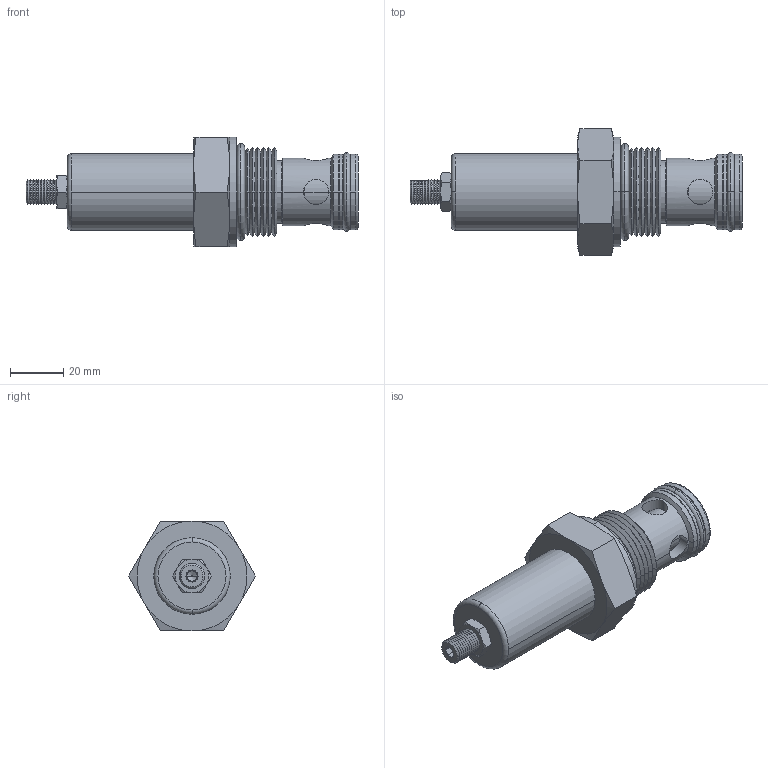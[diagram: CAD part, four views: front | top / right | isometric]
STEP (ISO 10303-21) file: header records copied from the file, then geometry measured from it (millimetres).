
FILE_DESCRIPTION((''),'2;1');
FILE_NAME('U:\Solid model CD\Solid model full\Mechanical\STEP\SJRVR00-3D Full.stp','2008-07-29T09:58:57',('Dan'),(''),'Autodesk Inventor 9','Autodesk Inventor 9','');
FILE_SCHEMA(('AUTOMOTIVE_DESIGN { 1 0 10303 214 1 1 1 1 }'));
Length unit declared in the file: inch
Products named in the file (5): SJRVR00-3D Full; SJRVR00-3D Full1; SJRVR00-3D Full2; SJRVR00-3D Full3; SJRVR00-3D Full4
Assembly tree (4 placements, depth 2):
  SJRVR00-3D Full
    SJRVR00-3D Full1
    SJRVR00-3D Full2
    SJRVR00-3D Full3
    SJRVR00-3D Full4
Bounding box: 124.71 x 47.66 x 41.27 mm (x, y, z)
Volume: 80270.8 mm3; surface area: 20241.6 mm2
Topology: 4 solids, 5 shells, 233 faces, 512 edges, 294 vertices
Faces by surface type: cone 128, plane 47, cylinder 44, torus 12, bspline 2
Entity records: 6677 total; most frequent: CARTESIAN_POINT 1540, DIRECTION 1129, ORIENTED_EDGE 1024, EDGE_CURVE 512, AXIS2_PLACEMENT_3D 481, VERTEX_POINT 294, EDGE_LOOP 254, CIRCLE 241
